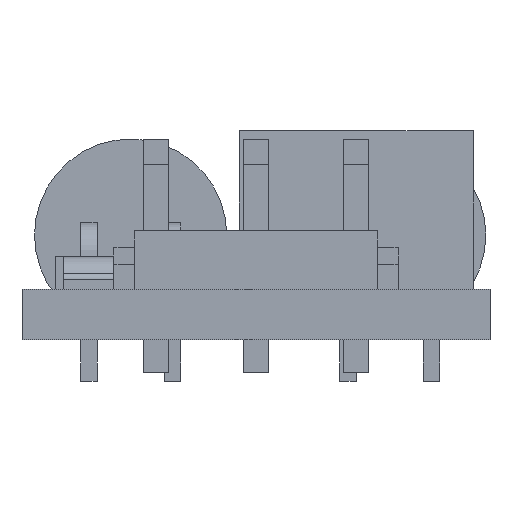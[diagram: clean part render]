
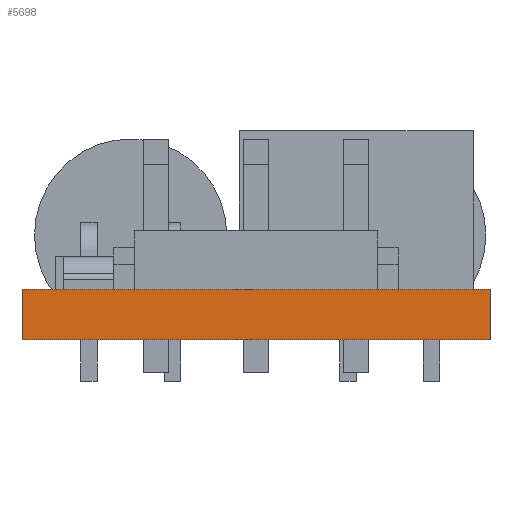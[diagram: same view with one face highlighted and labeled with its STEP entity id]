
A CAD part, front view. The second image highlights one B-rep face of the part: STEP entity #5698.
In plain terms, the highlighted planar face has unit normal (0, -1, 0).
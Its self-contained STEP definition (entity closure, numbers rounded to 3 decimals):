
#570=FACE_OUTER_BOUND('',#909,.T.);
#909=EDGE_LOOP('',(#4098,#4099,#4100,#4101));
#1251=LINE('',#7665,#1900);
#1385=LINE('',#8739,#2034);
#1389=LINE('',#8747,#2038);
#1390=LINE('',#8749,#2039);
#1900=VECTOR('',#6379,14.224);
#2034=VECTOR('',#6545,1.524);
#2038=VECTOR('',#6553,1.524);
#2039=VECTOR('',#6556,14.224);
#2538=VERTEX_POINT('',#7658);
#2541=VERTEX_POINT('',#7663);
#2717=VERTEX_POINT('',#8735);
#2720=VERTEX_POINT('',#8745);
#3078=EDGE_CURVE('',#2541,#2538,#1251,.T.);
#3263=EDGE_CURVE('',#2538,#2717,#1385,.T.);
#3267=EDGE_CURVE('',#2541,#2720,#1389,.T.);
#3268=EDGE_CURVE('',#2720,#2717,#1390,.T.);
#4098=ORIENTED_EDGE('',*,*,#3268,.T.);
#4099=ORIENTED_EDGE('',*,*,#3263,.F.);
#4100=ORIENTED_EDGE('',*,*,#3078,.F.);
#4101=ORIENTED_EDGE('',*,*,#3267,.T.);
#5457=PLANE('',#6037);
#5698=ADVANCED_FACE('',(#570),#5457,.F.);
#6037=AXIS2_PLACEMENT_3D('',#8748,#6554,#6555);
#6379=DIRECTION('',(1.,0.,0.));
#6545=DIRECTION('',(0.,0.,-1.));
#6553=DIRECTION('',(0.,0.,-1.));
#6554=DIRECTION('center_axis',(0.,1.,0.));
#6555=DIRECTION('ref_axis',(0.,0.,1.));
#6556=DIRECTION('',(1.,0.,0.));
#7658=CARTESIAN_POINT('',(7.112,-15.621,0.762));
#7663=CARTESIAN_POINT('',(-7.112,-15.621,0.762));
#7665=CARTESIAN_POINT('',(-7.112,-15.621,0.762));
#8735=CARTESIAN_POINT('',(7.112,-15.621,-0.762));
#8739=CARTESIAN_POINT('',(7.112,-15.621,0.762));
#8745=CARTESIAN_POINT('',(-7.112,-15.621,-0.762));
#8747=CARTESIAN_POINT('',(-7.112,-15.621,0.762));
#8748=CARTESIAN_POINT('Origin',(-7.112,-15.621,0.762));
#8749=CARTESIAN_POINT('',(-7.112,-15.621,-0.762));
